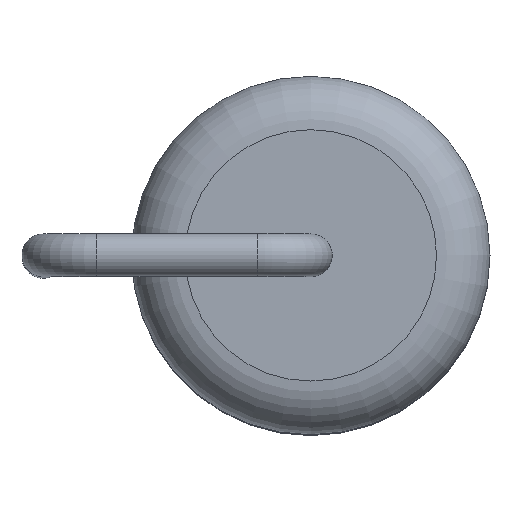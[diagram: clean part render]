
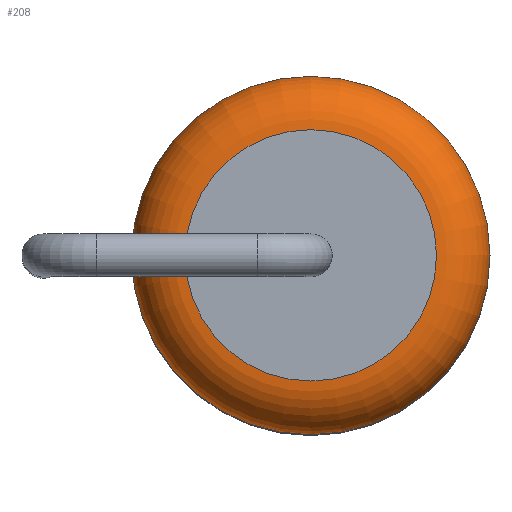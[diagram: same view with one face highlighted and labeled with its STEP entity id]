
A CAD part, top view. The second image highlights one B-rep face of the part: STEP entity #208.
In plain terms, the highlighted toroidal (fillet/blend) face has major radius 2.35 mm and minor radius 1 mm.
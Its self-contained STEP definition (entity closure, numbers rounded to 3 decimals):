
#208=ADVANCED_FACE('',(#377,#379),#381,.T.);
#377=FACE_OUTER_BOUND('',#378,.T.);
#378=EDGE_LOOP('',(#468));
#379=FACE_OUTER_BOUND('',#380,.T.);
#380=EDGE_LOOP('',(#469));
#381=TOROIDAL_SURFACE('',#382,2.35,1.);
#382=AXIS2_PLACEMENT_3D('',#383,#384,#385);
#383=CARTESIAN_POINT('',(0.,0.,-5.5));
#384=DIRECTION('',(0.,0.,-1.));
#385=DIRECTION('',(-1.,0.,0.));
#468=ORIENTED_EDGE('',*,*,#494,.F.);
#469=ORIENTED_EDGE('',*,*,#493,.T.);
#493=EDGE_CURVE('',#521,#521,#522,.T.);
#494=EDGE_CURVE('',#523,#523,#524,.T.);
#521=VERTEX_POINT('',#587);
#522=CIRCLE('',#588,3.35);
#523=VERTEX_POINT('',#592);
#524=CIRCLE('',#593,2.35);
#587=CARTESIAN_POINT('',(-3.35,0.,-5.5));
#588=AXIS2_PLACEMENT_3D('',#589,#590,#591);
#589=CARTESIAN_POINT('',(0.,0.,-5.5));
#590=DIRECTION('',(0.,0.,-1.));
#591=DIRECTION('',(-1.,0.,0.));
#592=CARTESIAN_POINT('',(-2.35,0.,-6.5));
#593=AXIS2_PLACEMENT_3D('',#594,#595,#596);
#594=CARTESIAN_POINT('',(0.,0.,-6.5));
#595=DIRECTION('',(0.,0.,-1.));
#596=DIRECTION('',(-1.,0.,0.));
